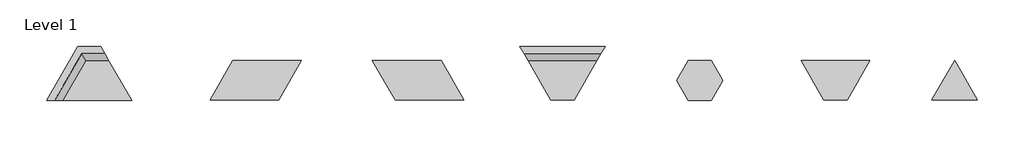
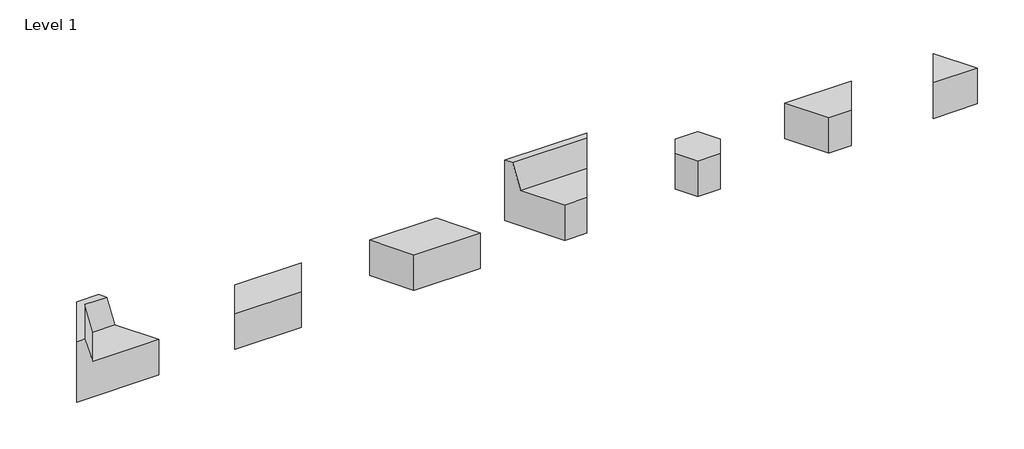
# One storey, incomplete: 7 furniture elements.
"""IFC4 building model written with IfcOpenShell, lengths in millimetres."""

from ifc_helpers import new_model, si_unit, origin, place, context, project, spatial, transform, mapped, element, save
from components import furniture_a358f8d0, furniture_90a128a2, furniture_a8070051, furniture_4c03583b, furniture_e2809db4, furniture_14fb0171, furniture_64804fba

model = new_model("IFC4")

# Units and contexts
model_context = context("Model", 3, world=origin())
ifc_project = project(units=[si_unit("LENGTHUNIT", "METRE", prefix="MILLI")], contexts=[model_context])

# Site, building, storey
site = spatial("IfcSite", under=ifc_project)
building = spatial("IfcBuilding", under=site)
storey = spatial("IfcBuildingStorey", under=building, Name="Level 1", Elevation=0.0)

# Furniture
placement = place(None, origin())
furniture_shape = furniture_a358f8d0(model_context)
element("IfcFurniture", 1, ObjectType="Hive Triangle Ottoman : Hive Triangle Ottoman", at=placement, inside=storey, context=model_context, shape_type="MappedRepresentation", body=[
    mapped(furniture_shape, transform((-10493.9139328, 1905.777063, 0.0), x_axis=(1.0, 0.0, 0.0), y_axis=(0.0, 1.0, 0.0), z_axis=(0.0, 0.0, 1.0))),
])
furniture_2_shape = furniture_90a128a2(model_context)
element("IfcFurniture", 2, ObjectType="Hive Corner Seat Right-Handed : Hive Corner Seat Right-Handed", at=placement, inside=storey, context=model_context, shape_type="MappedRepresentation", body=[
    mapped(furniture_2_shape, transform((-20701.9963825, 1902.177063, 0.0), x_axis=(1.0, 0.0, 0.0), y_axis=(0.0, 1.0, 0.0), z_axis=(0.0, 0.0, 1.0))),
])
furniture_3_shape = furniture_a8070051(model_context)
element("IfcFurniture", 3, ObjectType="Hive Hexigon Table : Hive Hexigon Table", at=placement, inside=storey, context=model_context, shape_type="MappedRepresentation", body=[
    mapped(furniture_3_shape, transform((-13305.3635044, 2144.177063, 0.0), x_axis=(1.0, 0.0, 0.0), y_axis=(0.0, 1.0, 0.0), z_axis=(0.0, 0.0, 1.0))),
])
furniture_4_shape = furniture_4c03583b(model_context)
element("IfcFurniture", 4, ObjectType="Hive Parallelogram Ottoman Left-Handed : Hive Parallelogram Ottoman Left-Handed", at=placement, inside=storey, context=model_context, shape_type="MappedRepresentation", body=[
    mapped(furniture_4_shape, transform((-18544.9580143, 2144.177063, 0.0), x_axis=(1.0, 0.0, 0.0), y_axis=(0.0, 1.0, 0.0), z_axis=(0.0, 0.0, 1.0))),
])
furniture_5_shape = furniture_e2809db4(model_context)
element("IfcFurniture", 5, ObjectType="Hive Parallelogram Ottoman Right-Handed : Hive Parallelogram Ottoman Right-Handed", at=placement, inside=storey, context=model_context, shape_type="MappedRepresentation", body=[
    mapped(furniture_5_shape, transform((-16854.3119099, 7981.9936627, 0.0), x_axis=(1.0, 0.0, 0.0), y_axis=(0.0, 1.0, 0.0), z_axis=(0.0, 0.0, 1.0))),
])
furniture_6_shape = furniture_14fb0171(model_context)
element("IfcFurniture", 6, ObjectType="Hive Straight Seat : Hive Straight Seat", at=placement, inside=storey, context=model_context, shape_type="MappedRepresentation", body=[
    mapped(furniture_6_shape, transform((-14968.534974, 1905.779563, 0.0), x_axis=(1.0, 0.0, 0.0), y_axis=(0.0, 1.0, 0.0), z_axis=(0.0, 0.0, 1.0))),
])
furniture_7_shape = furniture_64804fba(model_context)
element("IfcFurniture", 7, ObjectType="Hive Trapezoid Ottoman : Hive Trapezoid Ottoman", at=placement, inside=storey, context=model_context, shape_type="MappedRepresentation", body=[
    mapped(furniture_7_shape, transform((-12077.2643083, 2456.382063, 0.0), x_axis=(1.0, 0.0, 0.0), y_axis=(0.0, 1.0, 0.0), z_axis=(0.0, 0.0, 1.0))),
])

save(model, "model.ifc")
